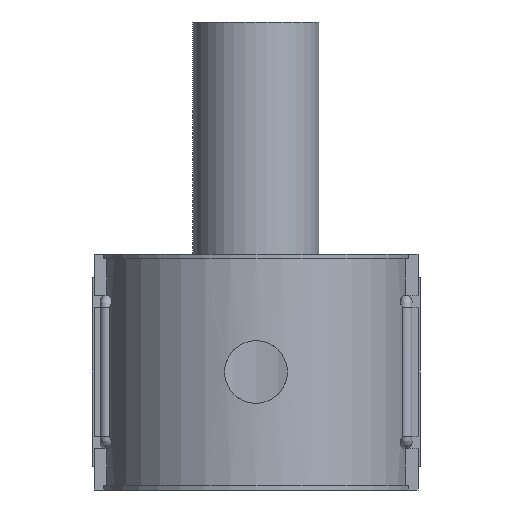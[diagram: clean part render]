
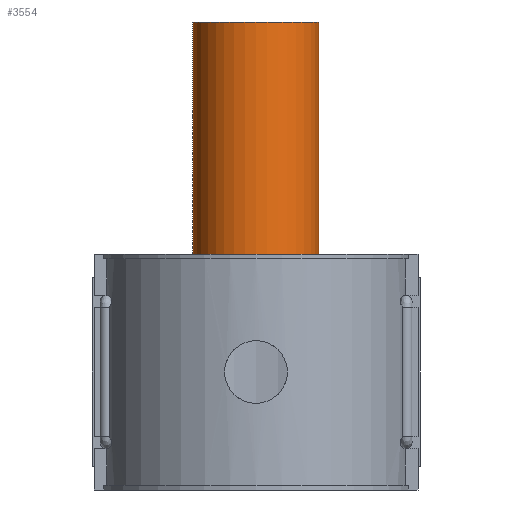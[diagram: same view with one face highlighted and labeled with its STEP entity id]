
A CAD part, front view. The second image highlights one B-rep face of the part: STEP entity #3554.
In plain terms, the highlighted cylindrical face has radius 31.5 mm (diameter 63 mm), a full revolution.
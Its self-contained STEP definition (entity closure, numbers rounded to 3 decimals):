
#323=CIRCLE('',#3899,31.5);
#324=CIRCLE('',#3900,31.5);
#325=CIRCLE('',#3901,31.5);
#326=CIRCLE('',#3902,31.5);
#533=FACE_OUTER_BOUND('',#759,.T.);
#759=EDGE_LOOP('',(#3284,#3285,#3286,#3287,#3288,#3289));
#1067=LINE('',#7299,#1371);
#1371=VECTOR('',#4856,31.5);
#1763=VERTEX_POINT('',#7294);
#1764=VERTEX_POINT('',#7295);
#1765=VERTEX_POINT('',#7298);
#1766=VERTEX_POINT('',#7300);
#2272=EDGE_CURVE('',#1763,#1764,#323,.T.);
#2273=EDGE_CURVE('',#1764,#1763,#324,.T.);
#2274=EDGE_CURVE('',#1764,#1765,#1067,.T.);
#2275=EDGE_CURVE('',#1765,#1766,#325,.T.);
#2276=EDGE_CURVE('',#1766,#1765,#326,.T.);
#3284=ORIENTED_EDGE('',*,*,#2272,.F.);
#3285=ORIENTED_EDGE('',*,*,#2273,.F.);
#3286=ORIENTED_EDGE('',*,*,#2274,.T.);
#3287=ORIENTED_EDGE('',*,*,#2275,.T.);
#3288=ORIENTED_EDGE('',*,*,#2276,.T.);
#3289=ORIENTED_EDGE('',*,*,#2274,.F.);
#3355=CYLINDRICAL_SURFACE('',#3898,31.5);
#3554=ADVANCED_FACE('',(#533),#3355,.T.);
#3898=AXIS2_PLACEMENT_3D('',#7293,#4850,#4851);
#3899=AXIS2_PLACEMENT_3D('',#7296,#4852,#4853);
#3900=AXIS2_PLACEMENT_3D('',#7297,#4854,#4855);
#3901=AXIS2_PLACEMENT_3D('',#7301,#4857,#4858);
#3902=AXIS2_PLACEMENT_3D('',#7302,#4859,#4860);
#4850=DIRECTION('center_axis',(0.,0.,1.));
#4851=DIRECTION('ref_axis',(0.,-1.,0.));
#4852=DIRECTION('center_axis',(0.,0.,1.));
#4853=DIRECTION('ref_axis',(1.,0.,0.));
#4854=DIRECTION('center_axis',(0.,0.,1.));
#4855=DIRECTION('ref_axis',(1.,0.,0.));
#4856=DIRECTION('',(0.,0.,-1.));
#4857=DIRECTION('center_axis',(0.,0.,1.));
#4858=DIRECTION('ref_axis',(1.,0.,0.));
#4859=DIRECTION('center_axis',(0.,0.,1.));
#4860=DIRECTION('ref_axis',(1.,0.,0.));
#7293=CARTESIAN_POINT('Origin',(0.,126.5,87.5));
#7294=CARTESIAN_POINT('',(0.,95.,175.));
#7295=CARTESIAN_POINT('',(0.,158.,175.));
#7296=CARTESIAN_POINT('Origin',(0.,126.5,175.));
#7297=CARTESIAN_POINT('Origin',(0.,126.5,175.));
#7298=CARTESIAN_POINT('',(0.,158.,0.));
#7299=CARTESIAN_POINT('',(0.,158.,87.5));
#7300=CARTESIAN_POINT('',(0.,95.,0.));
#7301=CARTESIAN_POINT('Origin',(0.,126.5,0.));
#7302=CARTESIAN_POINT('Origin',(0.,126.5,0.));
